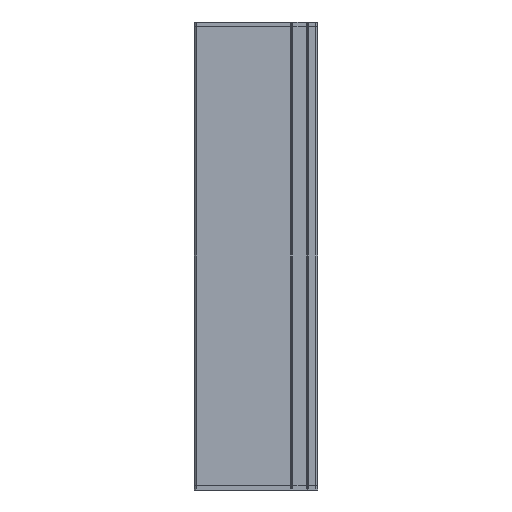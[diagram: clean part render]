
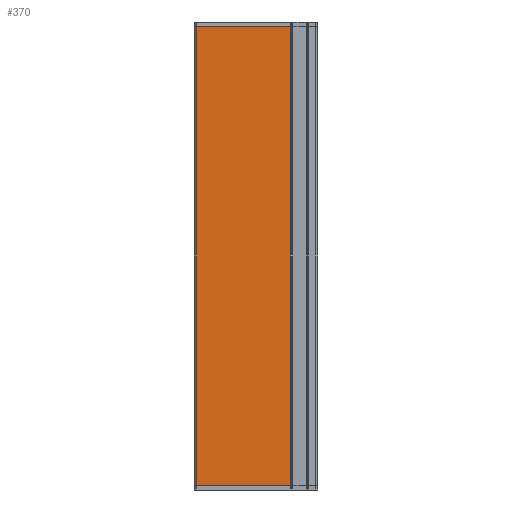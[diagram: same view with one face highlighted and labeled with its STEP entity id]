
A CAD part, left-side view. The second image highlights one B-rep face of the part: STEP entity #370.
In plain terms, the highlighted planar face has unit normal (-1, 0, 0).
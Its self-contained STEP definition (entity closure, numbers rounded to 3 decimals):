
#175 = CARTESIAN_POINT ( 'NONE',  ( -19., 26.417, 50. ) ) ;
#370 = ADVANCED_FACE ( 'NONE', ( #26639 ), #18168, .F. ) ;
#992 = ORIENTED_EDGE ( 'NONE', *, *, #26337, .F. ) ;
#1027 = VERTEX_POINT ( 'NONE', #7157 ) ;
#4496 = EDGE_CURVE ( 'NONE', #1027, #20088, #10216, .T. ) ;
#5441 = LINE ( 'NONE', #13904, #28996 ) ;
#7008 = VECTOR ( 'NONE', #25557, 1000. ) ;
#7155 = CARTESIAN_POINT ( 'NONE',  ( -19., 5.9, 50. ) ) ;
#7157 = CARTESIAN_POINT ( 'NONE',  ( -19., 26.417, 50. ) ) ;
#7446 = DIRECTION ( 'NONE',  ( 0., -1., 0. ) ) ;
#9122 = CARTESIAN_POINT ( 'NONE',  ( -19., 26.417, 50. ) ) ;
#9388 = CARTESIAN_POINT ( 'NONE',  ( -19., 5.9, 50. ) ) ;
#9859 = ORIENTED_EDGE ( 'NONE', *, *, #29574, .T. ) ;
#10216 = LINE ( 'NONE', #175, #7008 ) ;
#10488 = VERTEX_POINT ( 'NONE', #13890 ) ;
#11291 = ORIENTED_EDGE ( 'NONE', *, *, #22808, .F. ) ;
#11312 = CARTESIAN_POINT ( 'NONE',  ( -19., 26.417, -50. ) ) ;
#13890 = CARTESIAN_POINT ( 'NONE',  ( -19., 5.9, -50. ) ) ;
#13904 = CARTESIAN_POINT ( 'NONE',  ( -19., 26.417, -50. ) ) ;
#14055 = DIRECTION ( 'NONE',  ( 0., 0., -1. ) ) ;
#15754 = DIRECTION ( 'NONE',  ( 0., 0., -1. ) ) ;
#16257 = EDGE_LOOP ( 'NONE', ( #9859, #992, #11291, #16806 ) ) ;
#16806 = ORIENTED_EDGE ( 'NONE', *, *, #4496, .T. ) ;
#17640 = VERTEX_POINT ( 'NONE', #7155 ) ;
#17978 = DIRECTION ( 'NONE',  ( 1., 0., 0. ) ) ;
#18168 = PLANE ( 'NONE',  #21547 ) ;
#19731 = VECTOR ( 'NONE', #14055, 1000. ) ;
#20088 = VERTEX_POINT ( 'NONE', #11312 ) ;
#20819 = DIRECTION ( 'NONE',  ( 0., -1., 0. ) ) ;
#21108 = CARTESIAN_POINT ( 'NONE',  ( -19., 26.417, 50. ) ) ;
#21547 = AXIS2_PLACEMENT_3D ( 'NONE', #9122, #17978, #15754 ) ;
#22808 = EDGE_CURVE ( 'NONE', #1027, #17640, #27407, .T. ) ;
#24229 = VECTOR ( 'NONE', #7446, 1000. ) ;
#25557 = DIRECTION ( 'NONE',  ( 0., 0., -1. ) ) ;
#26191 = LINE ( 'NONE', #9388, #19731 ) ;
#26337 = EDGE_CURVE ( 'NONE', #17640, #10488, #26191, .T. ) ;
#26639 = FACE_OUTER_BOUND ( 'NONE', #16257, .T. ) ;
#27407 = LINE ( 'NONE', #21108, #24229 ) ;
#28996 = VECTOR ( 'NONE', #20819, 1000. ) ;
#29574 = EDGE_CURVE ( 'NONE', #20088, #10488, #5441, .T. ) ;
